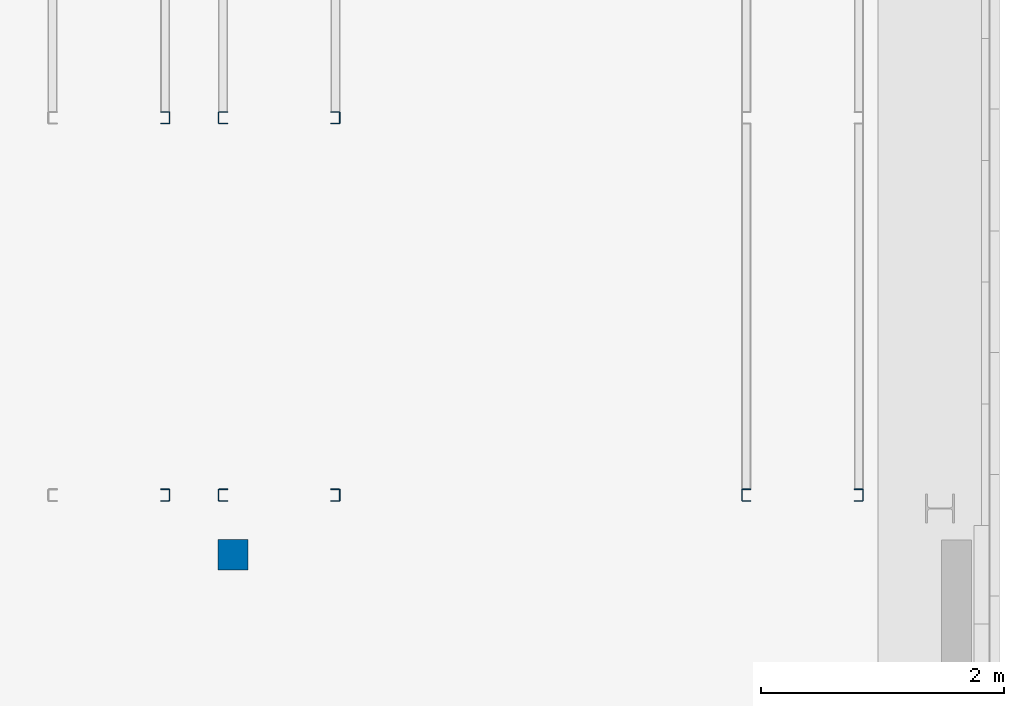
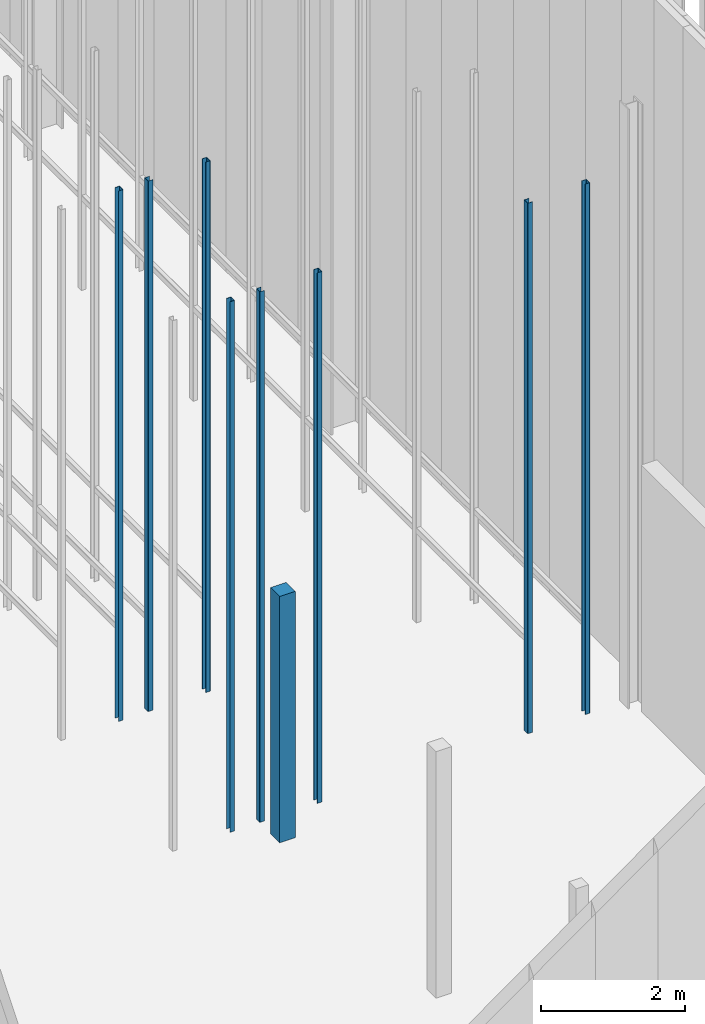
# One storey, part 13 of 302: 9 columns.
"""IFC2X3 building model written with IfcOpenShell, lengths in metres."""

from ifc_helpers import new_model, entity, si_unit, converted_unit, derived_unit, direction, frame, frame_2d, origin, origin_2d_with_axis, place, context, subcontext, project, spatial, polyline, circle_curve, parameter, trimmed, segment, composite_curve, rectangle, outline, extrude, source, transform, mapped, material, type_object, type_shapes, element, save


model = new_model("IFC2X3")

# Units and contexts
model_context = context("Model", 3, precision=1e-05, world=origin(), true_north=direction((6.12303176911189e-17, 1.0)))
body_context = subcontext(model_context, "Body", "Model", "MODEL_VIEW")
ifc_project = project(units=[si_unit("LENGTHUNIT", "METRE"), si_unit("AREAUNIT", "SQUARE_METRE"), si_unit("VOLUMEUNIT", "CUBIC_METRE"), converted_unit("PLANEANGLEUNIT", "DEGREE", entity("IfcRatioMeasure", 0.0174532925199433), si_unit("PLANEANGLEUNIT", "RADIAN"), dimensions=[0, 0, 0, 0, 0, 0, 0]), si_unit("MASSUNIT", "GRAM", prefix="KILO"), derived_unit("MASSDENSITYUNIT", [(si_unit("MASSUNIT", "GRAM", prefix="KILO"), 1), (si_unit("LENGTHUNIT", "METRE"), -3)]), derived_unit("MOMENTOFINERTIAUNIT", [(si_unit("LENGTHUNIT", "METRE"), 4)]), si_unit("TIMEUNIT", "SECOND"), si_unit("FREQUENCYUNIT", "HERTZ"), si_unit("THERMODYNAMICTEMPERATUREUNIT", "DEGREE_CELSIUS"), derived_unit("THERMALTRANSMITTANCEUNIT", [(si_unit("MASSUNIT", "GRAM", prefix="KILO"), 1), (si_unit("THERMODYNAMICTEMPERATUREUNIT", "KELVIN"), -1), (si_unit("TIMEUNIT", "SECOND"), -3)]), derived_unit("VOLUMETRICFLOWRATEUNIT", [(si_unit("LENGTHUNIT", "METRE"), 3), (si_unit("TIMEUNIT", "SECOND"), -1)]), si_unit("ELECTRICCURRENTUNIT", "AMPERE"), si_unit("ELECTRICVOLTAGEUNIT", "VOLT"), si_unit("POWERUNIT", "WATT"), si_unit("FORCEUNIT", "NEWTON", prefix="KILO"), si_unit("ILLUMINANCEUNIT", "LUX"), si_unit("LUMINOUSFLUXUNIT", "LUMEN"), si_unit("LUMINOUSINTENSITYUNIT", "CANDELA"), derived_unit("USERDEFINED", [(si_unit("MASSUNIT", "GRAM", prefix="KILO"), -1), (si_unit("LENGTHUNIT", "METRE"), -2), (si_unit("TIMEUNIT", "SECOND"), 3), (si_unit("LUMINOUSFLUXUNIT", "LUMEN"), 1)]), derived_unit("LINEARVELOCITYUNIT", [(si_unit("LENGTHUNIT", "METRE"), 1), (si_unit("TIMEUNIT", "SECOND"), -1)]), si_unit("PRESSUREUNIT", "PASCAL"), derived_unit("USERDEFINED", [(si_unit("LENGTHUNIT", "METRE"), -2), (si_unit("MASSUNIT", "GRAM", prefix="KILO"), 1), (si_unit("TIMEUNIT", "SECOND"), -2)]), derived_unit("LINEARFORCEUNIT", [(si_unit("MASSUNIT", "GRAM", prefix="KILO"), 1), (si_unit("LENGTHUNIT", "METRE"), 1), (si_unit("TIMEUNIT", "SECOND"), -2), (si_unit("LENGTHUNIT", "METRE"), -1)]), derived_unit("PLANARFORCEUNIT", [(si_unit("MASSUNIT", "GRAM", prefix="KILO"), 1), (si_unit("LENGTHUNIT", "METRE"), 1), (si_unit("TIMEUNIT", "SECOND"), -2), (si_unit("LENGTHUNIT", "METRE"), -2)])], contexts=[model_context])

# Site, building, storey
site_placement = place(None, origin())
site = spatial("IfcSite", under=ifc_project, at=site_placement, Name="Default", CompositionType="ELEMENT")
building_placement = place(site_placement, origin())
building = spatial("IfcBuilding", under=site, at=building_placement, CompositionType="ELEMENT")
storey_placement = place(building_placement, frame((0.0, 0.0, -1.3)))
storey = spatial("IfcBuildingStorey", under=building, at=storey_placement, Name="00_EG", CompositionType="ELEMENT", Elevation=-1.3)

# Columns
ifc_material_1 = material(Name="Ortbeton -Stütze")
column_type_1 = type_object("IfcColumnType", Name="STB Stütze - rechteckig:Stütze 250 x 250", PredefinedType="COLUMN", material=ifc_material_1)
shared_shape_1 = source(origin(), body_context, "Body", "SweptSolid", [
    extrude(rectangle(XDim=0.25, YDim=0.25, at=origin_2d_with_axis()), frame((0.0, 0.0, -0.0300000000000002), z_axis=(0.0, 0.0, 1.0), x_axis=(0.0, -1.0, 0.0)), (0.0, 0.0, 1.0), 4.18),
])
type_shapes(column_type_1, [shared_shape_1])
column_placement = place(storey_placement, frame((-183.570111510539, 23.5072628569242, 1.3)))
element("IfcColumn", 1, at=column_placement, inside=storey, type_object=column_type_1, material=ifc_material_1, Name="STB Stütze - rechteckig:Stütze 250 x 250", ObjectType="STB Stütze - rechteckig:Stütze 250 x 250", context=body_context, shape_type="MappedRepresentation", body=[
    mapped(shared_shape_1, transform((0.0, 0.0, 0.0), scale=1.0)),
])
ifc_material_2 = material(Name="Metall - Baustahl S235")
column_type_2 = type_object("IfcColumnType", Name="Leichter Stahl Schlossschrauben Stütze:C 100", PredefinedType="COLUMN", material=ifc_material_2)
shared_shape_2 = source(origin(), body_context, "Body", "SweptSolid", [
    extrude(outline(composite_curve([segment(polyline([(-0.0469749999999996, -0.0499999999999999), (0.0214500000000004, -0.0499999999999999)]), True, "CONTINUOUS"), segment(trimmed(circle_curve(frame_2d((0.0214500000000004, -0.0434249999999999), x_axis=(0.0, -1.0)), 0.00657500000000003), [parameter(0.0)], [parameter(89.9999999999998)], True, "PARAMETER"), True, "CONTINUOUS"), segment(polyline([(0.0280250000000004, -0.0434249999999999), (0.0280250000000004, 0.0434250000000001)]), True, "CONTINUOUS"), segment(trimmed(circle_curve(frame_2d((0.0214500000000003, 0.0434250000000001), x_axis=(1.0, 0.0)), 0.0065750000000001), [parameter(0.0)], [parameter(89.9999999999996)], True, "PARAMETER"), True, "CONTINUOUS"), segment(polyline([(0.0214500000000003, 0.0500000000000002), (-0.0469750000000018, 0.0500000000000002)]), True, "CONTINUOUS"), segment(polyline([(-0.0469750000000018, 0.0500000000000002), (-0.0469750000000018, 0.0450000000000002)]), True, "CONTINUOUS"), segment(polyline([(-0.0469750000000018, 0.0450000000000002), (0.0214500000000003, 0.0450000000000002)]), True, "CONTINUOUS"), segment(trimmed(circle_curve(frame_2d((0.0214500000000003, 0.0434249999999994), x_axis=(0.0, 1.0)), 0.00157500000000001), [parameter(269.999999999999)], [parameter(0.0)], True, "PARAMETER"), False, "CONTINUOUS"), segment(polyline([(0.0230250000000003, 0.0434249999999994), (0.0230250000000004, -0.0434249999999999)]), True, "CONTINUOUS"), segment(trimmed(circle_curve(frame_2d((0.0214500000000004, -0.0434249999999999), x_axis=(1.0, 0.0)), 0.00157500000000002), [parameter(270.0)], [parameter(0.0)], True, "PARAMETER"), False, "CONTINUOUS"), segment(polyline([(0.0214500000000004, -0.0449999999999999), (-0.0469749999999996, -0.0449999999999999)]), True, "CONTINUOUS"), segment(polyline([(-0.0469749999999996, -0.0449999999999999), (-0.0469749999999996, -0.0499999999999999)]), True, "CONTINUOUS")], self_intersect=False)), frame((0.0499999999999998, 0.0280250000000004, -0.0300000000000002), z_axis=(0.0, 0.0, 1.0), x_axis=(0.0, -1.0, 0.0)), (0.0, 0.0, 1.0), 9.0),
])
type_shapes(column_type_2, [shared_shape_2])
for number, where, z_axis, x_axis in (
    (2, (-183.690111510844, 27.148088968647, 1.3), (0.0, 0.0, 1.0), (0.0, -1.0, 0.0)),
    (3, (-183.690111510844, 24.048088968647, 1.3), (0.0, 0.0, 1.0), (0.0, -1.0, 0.0)),
    (4, (-179.390111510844, 24.048088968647, 1.3), (0.0, 0.0, 1.0), (0.0, -1.0, 0.0)),
):
    element("IfcColumn", number, at=place(storey_placement, frame(where, z_axis=z_axis, x_axis=x_axis)), inside=storey, type_object=column_type_2, material=ifc_material_2, Name="Leichter Stahl Schlossschrauben Stütze:C 100", ObjectType="Leichter Stahl Schlossschrauben Stütze:C 100", context=body_context, shape_type="MappedRepresentation", body=[
        mapped(shared_shape_2, transform((0.0, 0.0, 0.0), scale=1.0)),
    ])
column_type_3 = type_object("IfcColumnType", Name="Leichter Stahl Schlossschrauben Stütze:C 100", PredefinedType="COLUMN", material=ifc_material_2)
shared_shape_3 = source(origin(), body_context, "Body", "SweptSolid", [
    extrude(outline(composite_curve([segment(polyline([(-0.0214500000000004, -0.0499999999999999), (0.0469749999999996, -0.0499999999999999)]), True, "CONTINUOUS"), segment(polyline([(0.0469749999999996, -0.0499999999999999), (0.0469749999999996, -0.0449999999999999)]), True, "CONTINUOUS"), segment(polyline([(0.0469749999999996, -0.0449999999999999), (-0.0214500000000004, -0.045)]), True, "CONTINUOUS"), segment(trimmed(circle_curve(frame_2d((-0.0214500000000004, -0.043425), x_axis=(0.0, -1.0)), 0.00157500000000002), [parameter(270.0)], [parameter(0.0)], True, "PARAMETER"), False, "CONTINUOUS"), segment(polyline([(-0.0230250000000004, -0.0434249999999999), (-0.0230250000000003, 0.0434249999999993)]), True, "CONTINUOUS"), segment(trimmed(circle_curve(frame_2d((-0.0214500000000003, 0.0434249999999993), x_axis=(-1.0, 0.0)), 0.00157500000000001), [parameter(269.999999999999)], [parameter(0.0)], True, "PARAMETER"), False, "CONTINUOUS"), segment(polyline([(-0.0214500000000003, 0.0450000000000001), (0.0469750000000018, 0.0450000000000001)]), True, "CONTINUOUS"), segment(polyline([(0.0469750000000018, 0.0450000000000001), (0.0469750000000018, 0.0500000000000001)]), True, "CONTINUOUS"), segment(polyline([(0.0469750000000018, 0.0500000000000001), (-0.0214500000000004, 0.0500000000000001)]), True, "CONTINUOUS"), segment(trimmed(circle_curve(frame_2d((-0.0214500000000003, 0.043425), x_axis=(0.0, 1.0)), 0.0065750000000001), [parameter(0.0)], [parameter(89.9999999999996)], True, "PARAMETER"), True, "CONTINUOUS"), segment(polyline([(-0.0280250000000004, 0.043425), (-0.0280250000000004, -0.043425)]), True, "CONTINUOUS"), segment(trimmed(circle_curve(frame_2d((-0.0214500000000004, -0.0434249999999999), x_axis=(-1.0, 0.0)), 0.00657500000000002), [parameter(0.0)], [parameter(89.9999999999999)], True, "PARAMETER"), True, "CONTINUOUS")], self_intersect=False)), frame((0.0499999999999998, -0.0280250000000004, -0.0300000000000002), z_axis=(0.0, 0.0, 1.0), x_axis=(0.0, -1.0, 0.0)), (0.0, 0.0, 1.0), 9.0),
])
type_shapes(column_type_3, [shared_shape_3])
for number, where, z_axis, x_axis in (
    (5, (-184.090111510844, 27.148088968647, 1.3), (0.0, 0.0, 1.0), (0.0, -1.0, 0.0)),
    (6, (-184.090111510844, 24.048088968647, 1.3), (0.0, 0.0, 1.0), (0.0, -1.0, 0.0)),
    (7, (-182.690111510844, 27.148088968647, 1.3), (0.0, 0.0, 1.0), (0.0, -1.0, 0.0)),
    (8, (-182.690111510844, 24.048088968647, 1.3), (0.0, 0.0, 1.0), (0.0, -1.0, 0.0)),
    (9, (-178.390111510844, 24.048088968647, 1.3), (0.0, 0.0, 1.0), (0.0, -1.0, 0.0)),
):
    element("IfcColumn", number, at=place(storey_placement, frame(where, z_axis=z_axis, x_axis=x_axis)), inside=storey, type_object=column_type_3, material=ifc_material_2, Name="Leichter Stahl Schlossschrauben Stütze:C 100", ObjectType="Leichter Stahl Schlossschrauben Stütze:C 100", context=body_context, shape_type="MappedRepresentation", body=[
        mapped(shared_shape_3, transform((0.0, 0.0, 0.0), scale=1.0)),
    ])

save(model, "model.ifc")
